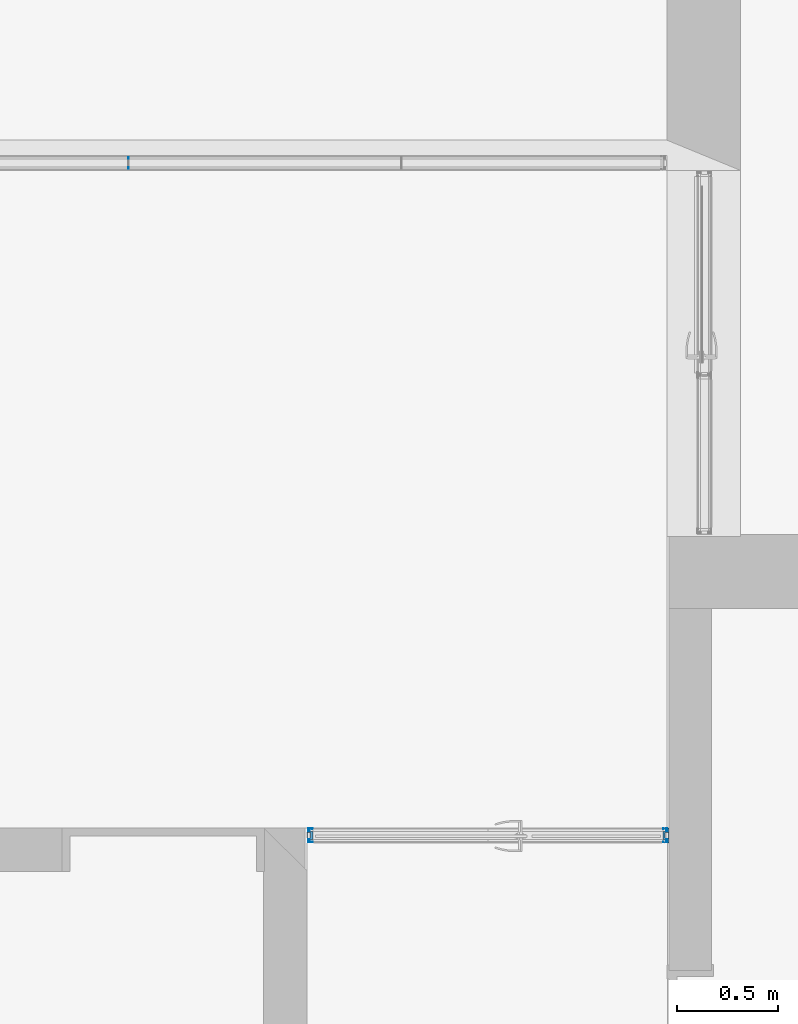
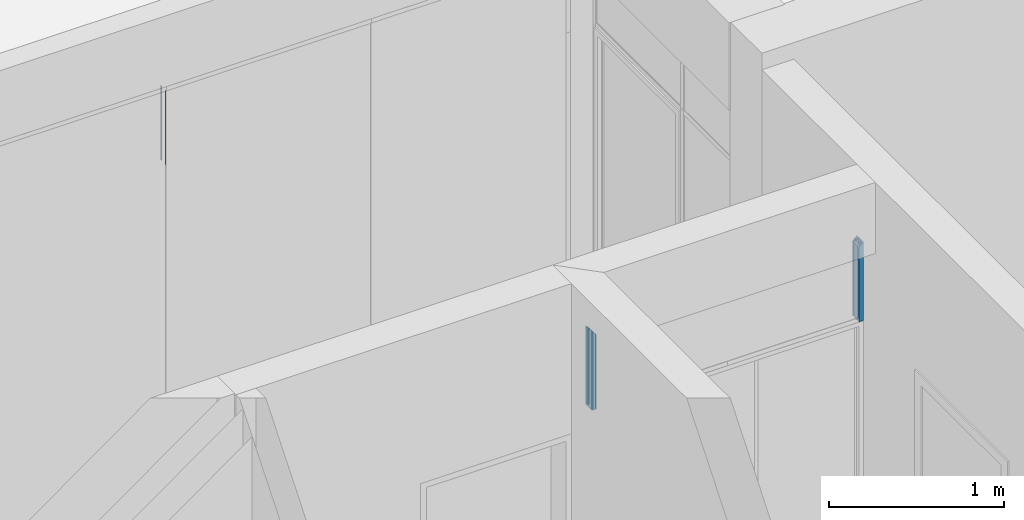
# One storey, part 32 of 89: 5 building element parts, 5 elements without a shape of their own.
"""IFC2X3 building model written with IfcOpenShell, lengths in millimetres."""

from ifc_helpers import new_model, entity, si_unit, converted_unit, derived_unit, money_unit, direction, frame, origin_with_axes, place, context, subcontext, project, spatial, faceted_brep, source, transform, mapped, material, type_object, element, aggregate, save


model = new_model("IFC2X3")

# Units and contexts
model_context = context("Model", 3, precision=0.01, world=origin_with_axes(), true_north=direction((0.0, 1.0)))
body_context = subcontext(model_context, "Body", "Model", "MODEL_VIEW")
ifc_project = project(units=[si_unit("LENGTHUNIT", "METRE", prefix="MILLI"), si_unit("AREAUNIT", "SQUARE_METRE"), si_unit("VOLUMEUNIT", "CUBIC_METRE"), converted_unit("PLANEANGLEUNIT", "DEGREE", entity("IfcPlaneAngleMeasure", 0.0174532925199), si_unit("PLANEANGLEUNIT", "RADIAN"), dimensions=[0, 0, 0, 0, 0, 0, 0]), si_unit("SOLIDANGLEUNIT", "STERADIAN"), money_unit("EUR"), converted_unit("TIMEUNIT", "Year", entity("IfcTimeMeasure", 31556926.0), si_unit("TIMEUNIT", "SECOND"), dimensions=[0, 0, 1, 0, 0, 0, 0]), si_unit("MASSUNIT", "GRAM", prefix="KILO"), si_unit("THERMODYNAMICTEMPERATUREUNIT", "DEGREE_CELSIUS"), si_unit("LUMINOUSINTENSITYUNIT", "LUMEN"), si_unit("ENERGYUNIT", "JOULE", prefix="MEGA"), derived_unit("THERMALCONDUCTANCEUNIT", [(si_unit("POWERUNIT", "WATT"), 1), (si_unit("LENGTHUNIT", "METRE"), -1), (si_unit("THERMODYNAMICTEMPERATUREUNIT", "KELVIN"), -1)]), derived_unit("SPECIFICHEATCAPACITYUNIT", [(si_unit("ENERGYUNIT", "JOULE"), 1), (si_unit("MASSUNIT", "GRAM", prefix="KILO"), -1), (si_unit("THERMODYNAMICTEMPERATUREUNIT", "KELVIN"), -1)]), derived_unit("MASSDENSITYUNIT", [(si_unit("MASSUNIT", "GRAM", prefix="KILO"), 1), (si_unit("VOLUMEUNIT", "CUBIC_METRE"), -1)])], contexts=[model_context])

# Site, building, storey
site_placement = place(None, origin_with_axes())
site = spatial("IfcSite", under=ifc_project, at=site_placement, Name="Puškini 31, Narva", CompositionType="ELEMENT")
building_placement = place(site_placement, origin_with_axes())
building = spatial("IfcBuilding", under=site, at=building_placement, Name="Narva Riigigümnaasium", CompositionType="ELEMENT")
storey_placement = place(building_placement, frame((0.0, 0.0, -3300.0), z_axis=(0.0, 0.0, 1.0), x_axis=(1.0, 0.0, 0.0)))
storey = spatial("IfcBuildingStorey", under=building, at=storey_placement, Name="1.korrus -3.3", CompositionType="ELEMENT", Elevation=-3300.0)

# Curtain wall, member, building element part
curtain_wall_type = type_object("IfcCurtainWallType", Name="Curtain Wall Type", PredefinedType="NOTDEFINED")
curtain_wall_1_placement = place(storey_placement, frame((40014.000008, 243997.000057, -9.155864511e-06), z_axis=(0.0, 0.0, 1.0), x_axis=(1.0, 0.0, 0.0)))
curtain_wall_1 = element("IfcCurtainWall", 1, at=curtain_wall_1_placement, inside=storey, type_object=curtain_wall_type, Name="G-SKLF-09")
member_type_1 = type_object("IfcMemberType", Name="3 x 19", PredefinedType="MULLION")
member_1_placement = place(curtain_wall_1_placement, frame((4813.99999221, 0.0, 2400.00000716), z_axis=(0.0, 0.0, 1.0), x_axis=(-1.0, 0.0, 0.0)))
member_1 = element("IfcMember", 2, at=member_1_placement, type_object=member_type_1, Name="G-SKLF-10-raam", ObjectType="MULLION")
aggregate(curtain_wall_1, [member_1])
ifc_material_1 = material(Name="Klaas")
shared_shape_1 = source(origin_with_axes(), body_context, "Body", "Brep", [
    faceted_brep([(1.4999861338, 20.0064497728, 0.0), (1.4999861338, 20.0064497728, 519.999980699), (-1.5000138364, 20.0064497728, 519.999980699), (-1.5000138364, 20.0064497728, 0.0), (1.4999861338, 29.0064496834, 0.0), (1.4999861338, 29.0064496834, 519.999980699), (-1.5000138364, 29.0064496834, 519.999980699), (-1.5000138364, 29.0064496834, 0.0)], [[[0, 1, 2, 3]], [[4, 5, 1, 0]], [[1, 5, 6, 2]], [[3, 2, 6, 7]], [[0, 3, 7, 4]], [[7, 6, 5, 4]]]),
    faceted_brep([(1.4999861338, -19.993550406, 0.0), (1.4999861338, -19.993550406, 519.999980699), (1.4999861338, -28.9935503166, 519.999980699), (1.4999861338, -28.9935503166, 0.0), (-1.5000138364, -19.993550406, 0.0), (-1.5000138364, -19.993550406, 519.999980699), (-1.5000138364, -28.9935503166, 519.999980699), (-1.5000138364, -28.9935503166, 0.0)], [[[0, 1, 2, 3]], [[4, 5, 1, 0]], [[1, 5, 6, 2]], [[3, 2, 6, 7]], [[0, 3, 7, 4]], [[7, 6, 5, 4]]]),
])
building_element_part_1_placement = place(member_1_placement, origin_with_axes())
building_element_part_1 = element("IfcBuildingElementPart", 3, at=building_element_part_1_placement, material=ifc_material_1, Name="Klaas", context=body_context, shape_type="MappedRepresentation", body=[
    mapped(shared_shape_1, transform((0.0, 0.0, 0.0), x_axis=(-1.0, 0.0, 0.0), y_axis=(0.0, -1.0, 0.0), z_axis=(0.0, 0.0, 1.0))),
])
aggregate(member_1, [building_element_part_1])

# Curtain wall, members, building element parts
curtain_wall_2_placement = place(storey_placement, frame((46605.0000001, 240678.000001, 0.0), z_axis=(0.0, 0.0, 1.0), x_axis=(1.0, 0.0, 0.0)))
curtain_wall_2 = element("IfcCurtainWall", 4, at=curtain_wall_2_placement, inside=storey, type_object=curtain_wall_type, Name="G-SKLF-57")
member_type_2 = type_object("IfcMemberType", Name="Boundary Frame 30 x 42", PredefinedType="MULLION")
member_2_placement = place(curtain_wall_2_placement, frame((895.0, 0.0, 2400.0), z_axis=(0.0, 0.0, 1.0), x_axis=(1.0, 0.0, 0.0)))
member_2 = element("IfcMember", 5, at=member_2_placement, type_object=member_type_2, Name="SKLF-89-raam", ObjectType="MULLION")
ifc_material_2 = material(Name="Klaasvill")
shared_shape_2 = source(origin_with_axes(), body_context, "Body", "Brep", [
    faceted_brep([(-7.49999990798, 15.000000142, 0.0), (-7.49999990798, 15.000000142, 542.500000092), (-13.8499999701, 15.000000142, 536.15000003), (-13.8499999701, 15.000000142, 0.0), (-7.49999990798, 29.0161444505, 0.0), (-7.49999990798, 29.0161444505, 542.500000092), (-13.8499999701, 29.0161444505, 536.15000003), (-13.8499999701, 29.0161444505, 0.0)], [[[0, 1, 2, 3]], [[4, 5, 1, 0]], [[1, 5, 6, 2]], [[3, 2, 6, 7]], [[0, 3, 7, 4]], [[7, 6, 5, 4]]]),
    faceted_brep([(-24.987414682, 29.0161444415, 0.0), (-24.987414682, 29.0161444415, 525.012585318), (-25.004489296, 27.0307503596, 524.995510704), (-25.004489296, 27.0307503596, 0.0), (-28.5126239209, 29.0161444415, 0.0), (-28.5126239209, 29.0161444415, 521.487376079), (-28.7655837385, 28.0385325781, 521.234416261), (-28.4955493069, 27.0307503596, 521.504450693), (-27.75780152, 26.2930025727, 522.24219848), (-26.7500193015, 26.0229681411, 523.249980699), (-25.742237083, 26.2930025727, 524.257762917), (-25.742237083, 26.2930025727, 0.0), (-26.7500193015, 26.0229681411, 0.0), (-27.75780152, 26.2930025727, 0.0), (-28.4955493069, 27.0307503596, 0.0), (-28.7655837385, 28.0385325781, 0.0)], [[[0, 1, 2, 3]], [[4, 5, 1, 0]], [[1, 5, 6, 7, 8, 9, 10, 2]], [[3, 2, 10, 11]], [[0, 3, 11, 12, 13, 14, 15, 4]], [[15, 6, 5, 4]], [[14, 7, 6, 15]], [[13, 8, 7, 14]], [[12, 9, 8, 13]], [[11, 10, 9, 12]]]),
    faceted_brep([(-7.49999990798, -24.9999997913, 0.0), (-7.49999990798, -24.9999997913, 542.500000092), (-7.49999990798, -39.0161445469, 542.500000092), (-7.49999990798, -39.0161445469, 0.0), (-13.8499999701, -24.9999997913, 0.0), (-13.8499999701, -24.9999997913, 536.15000003), (-13.8499999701, -39.0161445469, 536.15000003), (-13.8499999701, -39.0161445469, 0.0)], [[[0, 1, 2, 3]], [[4, 5, 1, 0]], [[1, 5, 6, 2]], [[3, 2, 6, 7]], [[0, 3, 7, 4]], [[7, 6, 5, 4]]]),
    faceted_brep([(-25.004489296, -37.0307503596, 0.0), (-25.004489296, -37.0307503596, 524.995510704), (-24.987414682, -39.0161444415, 525.012585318), (-24.987414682, -39.0161444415, 0.0), (-25.742237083, -36.2930025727, 0.0), (-25.742237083, -36.2930025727, 524.257762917), (-26.7500193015, -36.0229681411, 523.249980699), (-27.75780152, -36.2930025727, 522.24219848), (-28.4955493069, -37.0307503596, 521.504450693), (-28.7655837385, -38.0385325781, 521.234416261), (-28.5126239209, -39.0161444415, 521.487376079), (-28.5126239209, -39.0161444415, 0.0), (-28.7655837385, -38.0385325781, 0.0), (-28.4955493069, -37.0307503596, 0.0), (-27.75780152, -36.2930025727, 0.0), (-26.7500193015, -36.0229681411, 0.0)], [[[0, 1, 2, 3]], [[4, 5, 1, 0]], [[1, 5, 6, 7, 8, 9, 10, 2]], [[3, 2, 10, 11]], [[0, 3, 11, 12, 13, 14, 15, 4]], [[15, 6, 5, 4]], [[14, 7, 6, 15]], [[13, 8, 7, 14]], [[12, 9, 8, 13]], [[11, 10, 9, 12]]]),
])
building_element_part_2_placement = place(member_2_placement, origin_with_axes())
building_element_part_2 = element("IfcBuildingElementPart", 6, at=building_element_part_2_placement, material=ifc_material_2, Name="Klaasvill", context=body_context, shape_type="MappedRepresentation", body=[
    mapped(shared_shape_2, transform((0.0, 0.0, 0.0))),
])
ifc_material_3 = material(Name="Teras RAL7012")
shared_shape_3 = source(origin_with_axes(), body_context, "Body", "Brep", [
    faceted_brep([(0.0, -22.0000000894, 0.0), (0.0, -22.0000000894, 550.0), (-29.5999996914, -22.0000000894, 520.400000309), (-29.5999996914, -22.0000000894, 0.0), (0.0, 12.0000000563, 0.0), (0.0, 12.0000000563, 550.0), (-29.5999996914, 12.0000000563, 520.400000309), (-1.9999999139, 10.0000001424, 548.000000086), (-1.9999999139, -20.0000001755, 548.000000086), (-18.7999996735, -20.0000001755, 531.200000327), (-18.7999996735, 10.0000001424, 531.200000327), (-29.5999996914, 12.0000000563, 0.0), (-1.9999999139, 10.0000001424, 0.0), (-18.7999996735, 10.0000001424, 0.0), (-18.7999996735, -20.0000001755, 0.0), (-1.9999999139, -20.0000001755, 0.0)], [[[0, 1, 2, 3]], [[4, 5, 1, 0]], [[1, 5, 6, 2], [7, 8, 9, 10]], [[3, 2, 6, 11]], [[0, 3, 11, 4], [12, 13, 14, 15]], [[11, 6, 5, 4]], [[15, 8, 7, 12]], [[14, 9, 8, 15]], [[13, 10, 9, 14]], [[12, 7, 10, 13]]]),
    faceted_brep([(0.0, 12.0, 0.0), (0.0, 12.0, 550.0), (-29.5999996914, 12.0000000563, 520.400000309), (-29.5999996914, 12.0000000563, 0.0), (0.0, 32.0, 0.0), (0.0, 32.0, 550.0), (-30.0000193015, 32.0, 519.999980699), (-30.0000193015, 29.0161444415, 519.999980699), (-28.5126239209, 29.0161444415, 521.487376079), (-24.987414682, 29.0161444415, 525.012585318), (-13.8499999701, 29.0161444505, 536.15000003), (-7.49999999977, 29.0161444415, 542.5), (-7.49999999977, 15.0, 542.5), (-13.8499999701, 15.000000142, 536.15000003), (-30.0000193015, 15.0, 519.999980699), (-30.0000193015, 12.0, 519.999980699), (-30.0000193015, 12.0, 0.0), (-30.0000193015, 15.0, 0.0), (-13.8499999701, 15.000000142, 0.0), (-7.49999999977, 15.0, 0.0), (-7.49999999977, 29.0161444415, 0.0), (-13.8499999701, 29.0161444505, 0.0), (-24.987414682, 29.0161444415, 0.0), (-28.5126239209, 29.0161444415, 0.0), (-30.0000193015, 29.0161444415, 0.0), (-30.0000193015, 32.0, 0.0)], [[[0, 1, 2, 3]], [[4, 5, 1, 0]], [[1, 5, 6, 7, 8, 9, 10, 11, 12, 13, 14, 15, 2]], [[3, 2, 15, 16]], [[0, 3, 16, 17, 18, 19, 20, 21, 22, 23, 24, 25, 4]], [[25, 6, 5, 4]], [[24, 7, 6, 25]], [[23, 8, 7, 24]], [[22, 9, 8, 23]], [[21, 10, 9, 22]], [[20, 11, 10, 21]], [[19, 12, 11, 20]], [[18, 13, 12, 19]], [[17, 14, 13, 18]], [[16, 15, 14, 17]]]),
    faceted_brep([(0.0, -22.0, 0.0), (0.0, -22.0, 550.0), (0.0, -42.0, 550.0), (0.0, -42.0, 0.0), (-29.5999996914, -22.0000000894, 0.0), (-29.5999996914, -22.0000000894, 520.400000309), (-30.0000193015, -22.0, 519.999980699), (-30.0000193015, -25.0, 519.999980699), (-13.8499999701, -24.9999997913, 536.15000003), (-7.49999999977, -25.0, 542.5), (-7.49999999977, -39.0161444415, 542.5), (-13.8499999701, -39.0161445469, 536.15000003), (-24.987414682, -39.0161444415, 525.012585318), (-28.5126239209, -39.0161444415, 521.487376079), (-30.0000193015, -39.0161444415, 519.999980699), (-30.0000193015, -42.0, 519.999980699), (-30.0000193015, -42.0, 0.0), (-30.0000193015, -39.0161444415, 0.0), (-28.5126239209, -39.0161444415, 0.0), (-24.987414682, -39.0161444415, 0.0), (-13.8499999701, -39.0161445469, 0.0), (-7.49999999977, -39.0161444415, 0.0), (-7.49999999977, -25.0, 0.0), (-13.8499999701, -24.9999997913, 0.0), (-30.0000193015, -25.0, 0.0), (-30.0000193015, -22.0, 0.0)], [[[0, 1, 2, 3]], [[4, 5, 1, 0]], [[1, 5, 6, 7, 8, 9, 10, 11, 12, 13, 14, 15, 2]], [[3, 2, 15, 16]], [[0, 3, 16, 17, 18, 19, 20, 21, 22, 23, 24, 25, 4]], [[25, 6, 5, 4]], [[24, 7, 6, 25]], [[23, 8, 7, 24]], [[22, 9, 8, 23]], [[21, 10, 9, 22]], [[20, 11, 10, 21]], [[19, 12, 11, 20]], [[18, 13, 12, 19]], [[17, 14, 13, 18]], [[16, 15, 14, 17]]]),
])
building_element_part_3_placement = place(member_2_placement, origin_with_axes())
building_element_part_3 = element("IfcBuildingElementPart", 7, at=building_element_part_3_placement, material=ifc_material_3, Name="Teras RAL7012", context=body_context, shape_type="MappedRepresentation", body=[
    mapped(shared_shape_3, transform((0.0, 0.0, 0.0))),
])
aggregate(member_2, [building_element_part_2, building_element_part_3])
member_3_placement = place(curtain_wall_2_placement, frame((-895.0, 0.0, 2400.0), z_axis=(0.0, 0.0, 1.0), x_axis=(1.0, 0.0, 0.0)))
member_3 = element("IfcMember", 8, at=member_3_placement, type_object=member_type_2, Name="SKLF-86-raam", ObjectType="MULLION")
aggregate(curtain_wall_2, [member_2, member_3])
shared_shape_4 = source(origin_with_axes(), body_context, "Body", "Brep", [
    faceted_brep([(7.49999990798, 15.000000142, 0.0), (13.8499999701, 15.000000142, 0.0), (13.8499999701, 15.000000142, 536.15000003), (7.49999990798, 15.000000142, 542.500000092), (7.49999990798, 29.0161444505, 0.0), (13.8499999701, 29.0161444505, 0.0), (13.8499999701, 29.0161444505, 536.15000003), (7.49999990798, 29.0161444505, 542.500000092)], [[[0, 1, 2, 3]], [[0, 4, 5, 1]], [[1, 5, 6, 2]], [[3, 2, 6, 7]], [[4, 0, 3, 7]], [[5, 4, 7, 6]]]),
    faceted_brep([(24.987414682, 29.0161444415, 0.0), (25.004489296, 27.0307503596, 0.0), (25.004489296, 27.0307503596, 524.995510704), (24.987414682, 29.0161444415, 525.012585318), (28.5126239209, 29.0161444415, 0.0), (28.7655837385, 28.0385325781, 0.0), (28.4955493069, 27.0307503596, 0.0), (27.75780152, 26.2930025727, 0.0), (26.7500193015, 26.0229681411, 0.0), (25.742237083, 26.2930025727, 0.0), (25.742237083, 26.2930025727, 524.257762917), (26.7500193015, 26.0229681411, 523.249980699), (27.75780152, 26.2930025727, 522.24219848), (28.4955493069, 27.0307503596, 521.504450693), (28.7655837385, 28.0385325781, 521.234416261), (28.5126239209, 29.0161444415, 521.487376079)], [[[0, 1, 2, 3]], [[0, 4, 5, 6, 7, 8, 9, 1]], [[1, 9, 10, 2]], [[3, 2, 10, 11, 12, 13, 14, 15]], [[4, 0, 3, 15]], [[5, 4, 15, 14]], [[6, 5, 14, 13]], [[7, 6, 13, 12]], [[8, 7, 12, 11]], [[9, 8, 11, 10]]]),
    faceted_brep([(7.49999990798, -24.9999997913, 0.0), (7.49999990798, -39.0161445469, 0.0), (7.49999990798, -39.0161445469, 542.500000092), (7.49999990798, -24.9999997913, 542.500000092), (13.8499999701, -24.9999997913, 0.0), (13.8499999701, -39.0161445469, 0.0), (13.8499999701, -39.0161445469, 536.15000003), (13.8499999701, -24.9999997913, 536.15000003)], [[[0, 1, 2, 3]], [[0, 4, 5, 1]], [[1, 5, 6, 2]], [[3, 2, 6, 7]], [[4, 0, 3, 7]], [[5, 4, 7, 6]]]),
    faceted_brep([(25.004489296, -37.0307503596, 0.0), (24.987414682, -39.0161444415, 0.0), (24.987414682, -39.0161444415, 525.012585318), (25.004489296, -37.0307503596, 524.995510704), (25.742237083, -36.2930025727, 0.0), (26.7500193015, -36.0229681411, 0.0), (27.75780152, -36.2930025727, 0.0), (28.4955493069, -37.0307503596, 0.0), (28.7655837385, -38.0385325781, 0.0), (28.5126239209, -39.0161444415, 0.0), (28.5126239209, -39.0161444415, 521.487376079), (28.7655837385, -38.0385325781, 521.234416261), (28.4955493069, -37.0307503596, 521.504450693), (27.75780152, -36.2930025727, 522.24219848), (26.7500193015, -36.0229681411, 523.249980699), (25.742237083, -36.2930025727, 524.257762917)], [[[0, 1, 2, 3]], [[0, 4, 5, 6, 7, 8, 9, 1]], [[1, 9, 10, 2]], [[3, 2, 10, 11, 12, 13, 14, 15]], [[4, 0, 3, 15]], [[5, 4, 15, 14]], [[6, 5, 14, 13]], [[7, 6, 13, 12]], [[8, 7, 12, 11]], [[9, 8, 11, 10]]]),
])
building_element_part_4_placement = place(member_3_placement, origin_with_axes())
building_element_part_4 = element("IfcBuildingElementPart", 9, at=building_element_part_4_placement, material=ifc_material_2, Name="Klaasvill", context=body_context, shape_type="MappedRepresentation", body=[
    mapped(shared_shape_4, transform((0.0, 0.0, 0.0))),
])
shared_shape_5 = source(origin_with_axes(), body_context, "Body", "Brep", [
    faceted_brep([(0.0, -22.0000000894, 0.0), (29.5999996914, -22.0000000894, 0.0), (29.5999996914, -22.0000000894, 520.400000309), (0.0, -22.0000000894, 550.0), (0.0, 12.0000000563, 0.0), (29.5999996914, 12.0000000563, 0.0), (1.9999999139, 10.0000001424, 0.0), (1.9999999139, -20.0000001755, 0.0), (18.7999996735, -20.0000001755, 0.0), (18.7999996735, 10.0000001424, 0.0), (29.5999996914, 12.0000000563, 520.400000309), (0.0, 12.0000000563, 550.0), (1.9999999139, 10.0000001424, 548.000000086), (18.7999996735, 10.0000001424, 531.200000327), (18.7999996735, -20.0000001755, 531.200000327), (1.9999999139, -20.0000001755, 548.000000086)], [[[0, 1, 2, 3]], [[0, 4, 5, 1], [6, 7, 8, 9]], [[1, 5, 10, 2]], [[3, 2, 10, 11], [12, 13, 14, 15]], [[4, 0, 3, 11]], [[5, 4, 11, 10]], [[7, 6, 12, 15]], [[8, 7, 15, 14]], [[9, 8, 14, 13]], [[6, 9, 13, 12]]]),
    faceted_brep([(0.0, 12.0, 0.0), (29.5999996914, 12.0000000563, 0.0), (29.5999996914, 12.0000000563, 520.400000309), (0.0, 12.0, 550.0), (0.0, 32.0, 0.0), (30.0000193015, 32.0, 0.0), (30.0000193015, 29.0161444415, 0.0), (28.5126239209, 29.0161444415, 0.0), (24.987414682, 29.0161444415, 0.0), (13.8499999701, 29.0161444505, 0.0), (7.49999999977, 29.0161444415, 0.0), (7.49999999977, 15.0, 0.0), (13.8499999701, 15.000000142, 0.0), (30.0000193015, 15.0, 0.0), (30.0000193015, 12.0, 0.0), (30.0000193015, 12.0, 519.999980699), (30.0000193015, 15.0, 519.999980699), (13.8499999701, 15.000000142, 536.15000003), (7.49999999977, 15.0, 542.5), (7.49999999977, 29.0161444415, 542.5), (13.8499999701, 29.0161444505, 536.15000003), (24.987414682, 29.0161444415, 525.012585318), (28.5126239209, 29.0161444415, 521.487376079), (30.0000193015, 29.0161444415, 519.999980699), (30.0000193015, 32.0, 519.999980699), (0.0, 32.0, 550.0)], [[[0, 1, 2, 3]], [[0, 4, 5, 6, 7, 8, 9, 10, 11, 12, 13, 14, 1]], [[1, 14, 15, 2]], [[3, 2, 15, 16, 17, 18, 19, 20, 21, 22, 23, 24, 25]], [[4, 0, 3, 25]], [[5, 4, 25, 24]], [[6, 5, 24, 23]], [[7, 6, 23, 22]], [[8, 7, 22, 21]], [[9, 8, 21, 20]], [[10, 9, 20, 19]], [[11, 10, 19, 18]], [[12, 11, 18, 17]], [[13, 12, 17, 16]], [[14, 13, 16, 15]]]),
    faceted_brep([(0.0, -22.0, 0.0), (0.0, -42.0, 0.0), (0.0, -42.0, 550.0), (0.0, -22.0, 550.0), (29.5999996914, -22.0000000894, 0.0), (30.0000193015, -22.0, 0.0), (30.0000193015, -25.0, 0.0), (13.8499999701, -24.9999997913, 0.0), (7.49999999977, -25.0, 0.0), (7.49999999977, -39.0161444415, 0.0), (13.8499999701, -39.0161445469, 0.0), (24.987414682, -39.0161444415, 0.0), (28.5126239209, -39.0161444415, 0.0), (30.0000193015, -39.0161444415, 0.0), (30.0000193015, -42.0, 0.0), (30.0000193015, -42.0, 519.999980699), (30.0000193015, -39.0161444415, 519.999980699), (28.5126239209, -39.0161444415, 521.487376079), (24.987414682, -39.0161444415, 525.012585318), (13.8499999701, -39.0161445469, 536.15000003), (7.49999999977, -39.0161444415, 542.5), (7.49999999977, -25.0, 542.5), (13.8499999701, -24.9999997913, 536.15000003), (30.0000193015, -25.0, 519.999980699), (30.0000193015, -22.0, 519.999980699), (29.5999996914, -22.0000000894, 520.400000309)], [[[0, 1, 2, 3]], [[0, 4, 5, 6, 7, 8, 9, 10, 11, 12, 13, 14, 1]], [[1, 14, 15, 2]], [[3, 2, 15, 16, 17, 18, 19, 20, 21, 22, 23, 24, 25]], [[4, 0, 3, 25]], [[5, 4, 25, 24]], [[6, 5, 24, 23]], [[7, 6, 23, 22]], [[8, 7, 22, 21]], [[9, 8, 21, 20]], [[10, 9, 20, 19]], [[11, 10, 19, 18]], [[12, 11, 18, 17]], [[13, 12, 17, 16]], [[14, 13, 16, 15]]]),
])
building_element_part_5_placement = place(member_3_placement, origin_with_axes())
building_element_part_5 = element("IfcBuildingElementPart", 10, at=building_element_part_5_placement, material=ifc_material_3, Name="Teras RAL7012", context=body_context, shape_type="MappedRepresentation", body=[
    mapped(shared_shape_5, transform((0.0, 0.0, 0.0))),
])
aggregate(member_3, [building_element_part_4, building_element_part_5])

save(model, "model.ifc")
